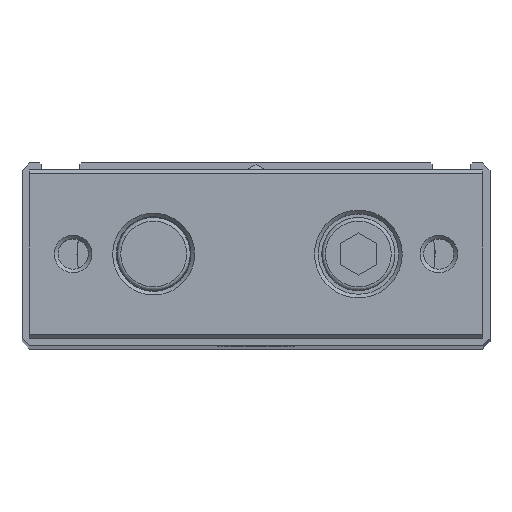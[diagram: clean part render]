
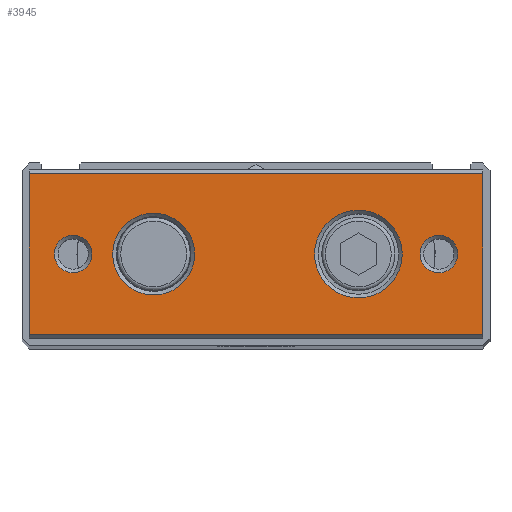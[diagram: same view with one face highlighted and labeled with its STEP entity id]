
A CAD part, top view. The second image highlights one B-rep face of the part: STEP entity #3945.
In plain terms, the highlighted planar face has unit normal (0, 0, 1).
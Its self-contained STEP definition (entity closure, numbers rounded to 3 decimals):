
#3393=CARTESIAN_POINT('',(-31.0,-11.,284.0));
#3394=VERTEX_POINT('',#3393);
#3401=CARTESIAN_POINT('',(-31.0,11.,284.0));
#3402=VERTEX_POINT('',#3401);
#3403=CARTESIAN_POINT('',(-31.0,11.,284.0));
#3404=DIRECTION('',(0.0,-1.0,0.0));
#3405=VECTOR('',#3404,22.);
#3406=LINE('',#3403,#3405);
#3407=EDGE_CURVE('',#3402,#3394,#3406,.T.);
#3521=CARTESIAN_POINT('',(31.0,-11.,284.0));
#3522=VERTEX_POINT('',#3521);
#3529=CARTESIAN_POINT('',(31.0,-11.,284.0));
#3530=DIRECTION('',(-1.0,0.0,0.0));
#3531=VECTOR('',#3530,62.0);
#3532=LINE('',#3529,#3531);
#3533=EDGE_CURVE('',#3522,#3394,#3532,.T.);
#3600=CARTESIAN_POINT('',(31.0,11.,284.0));
#3601=VERTEX_POINT('',#3600);
#3608=CARTESIAN_POINT('',(31.0,-11.,284.0));
#3609=DIRECTION('',(0.0,1.0,0.0));
#3610=VECTOR('',#3609,22.);
#3611=LINE('',#3608,#3610);
#3612=EDGE_CURVE('',#3522,#3601,#3611,.T.);
#3881=CARTESIAN_POINT('',(20.0,0.,284.0));
#3882=VERTEX_POINT('',#3881);
#3883=CARTESIAN_POINT('',(14.0,0.,284.0));
#3884=DIRECTION('',(0.0,0.0,1.0));
#3885=DIRECTION('',(-1.0,0.0,0.0));
#3886=AXIS2_PLACEMENT_3D('',#3883,#3884,#3885);
#3887=CIRCLE('',#3886,6.);
#3888=EDGE_CURVE('',#3882,#3882,#3887,.T.);
#3893=CARTESIAN_POINT('',(0.0,-11.5,284.0));
#3894=DIRECTION('',(0.0,0.0,1.0));
#3895=DIRECTION('',(1.0,0.0,0.0));
#3896=AXIS2_PLACEMENT_3D('',#3893,#3894,#3895);
#3897=PLANE('',#3896);
#3898=ORIENTED_EDGE('',*,*,#3533,.F.);
#3899=ORIENTED_EDGE('',*,*,#3612,.T.);
#3900=CARTESIAN_POINT('',(-31.0,11.,284.0));
#3901=DIRECTION('',(1.0,0.0,0.0));
#3902=VECTOR('',#3901,62.0);
#3903=LINE('',#3900,#3902);
#3904=EDGE_CURVE('',#3402,#3601,#3903,.T.);
#3905=ORIENTED_EDGE('',*,*,#3904,.F.);
#3906=ORIENTED_EDGE('',*,*,#3407,.T.);
#3907=EDGE_LOOP('',(#3898,#3899,#3905,#3906));
#3908=FACE_OUTER_BOUND('',#3907,.T.);
#3909=CARTESIAN_POINT('',(-8.4,0.,284.0));
#3910=VERTEX_POINT('',#3909);
#3911=CARTESIAN_POINT('',(-14.,0.,284.0));
#3912=DIRECTION('',(0.0,0.0,1.0));
#3913=DIRECTION('',(-1.0,0.0,0.0));
#3914=AXIS2_PLACEMENT_3D('',#3911,#3912,#3913);
#3915=CIRCLE('',#3914,5.6);
#3916=EDGE_CURVE('',#3910,#3910,#3915,.T.);
#3917=ORIENTED_EDGE('',*,*,#3916,.F.);
#3918=EDGE_LOOP('',(#3917));
#3919=FACE_BOUND('',#3918,.T.);
#3920=CARTESIAN_POINT('',(27.567,0.,284.0));
#3921=VERTEX_POINT('',#3920);
#3922=CARTESIAN_POINT('',(25.,0.,284.0));
#3923=DIRECTION('',(0.0,0.0,1.0));
#3924=DIRECTION('',(-1.0,0.0,0.0));
#3925=AXIS2_PLACEMENT_3D('',#3922,#3923,#3924);
#3926=CIRCLE('',#3925,2.567);
#3927=EDGE_CURVE('',#3921,#3921,#3926,.T.);
#3928=ORIENTED_EDGE('',*,*,#3927,.F.);
#3929=EDGE_LOOP('',(#3928));
#3930=FACE_BOUND('',#3929,.T.);
#3931=CARTESIAN_POINT('',(-22.433,0.,284.0));
#3932=VERTEX_POINT('',#3931);
#3933=CARTESIAN_POINT('',(-25.0,0.,284.0));
#3934=DIRECTION('',(0.0,0.0,1.0));
#3935=DIRECTION('',(-1.0,0.0,0.0));
#3936=AXIS2_PLACEMENT_3D('',#3933,#3934,#3935);
#3937=CIRCLE('',#3936,2.567);
#3938=EDGE_CURVE('',#3932,#3932,#3937,.T.);
#3939=ORIENTED_EDGE('',*,*,#3938,.F.);
#3940=EDGE_LOOP('',(#3939));
#3941=FACE_BOUND('',#3940,.T.);
#3942=ORIENTED_EDGE('',*,*,#3888,.F.);
#3943=EDGE_LOOP('',(#3942));
#3944=FACE_BOUND('',#3943,.T.);
#3945=ADVANCED_FACE('',(#3908,#3919,#3930,#3941,#3944),#3897,.T.);
